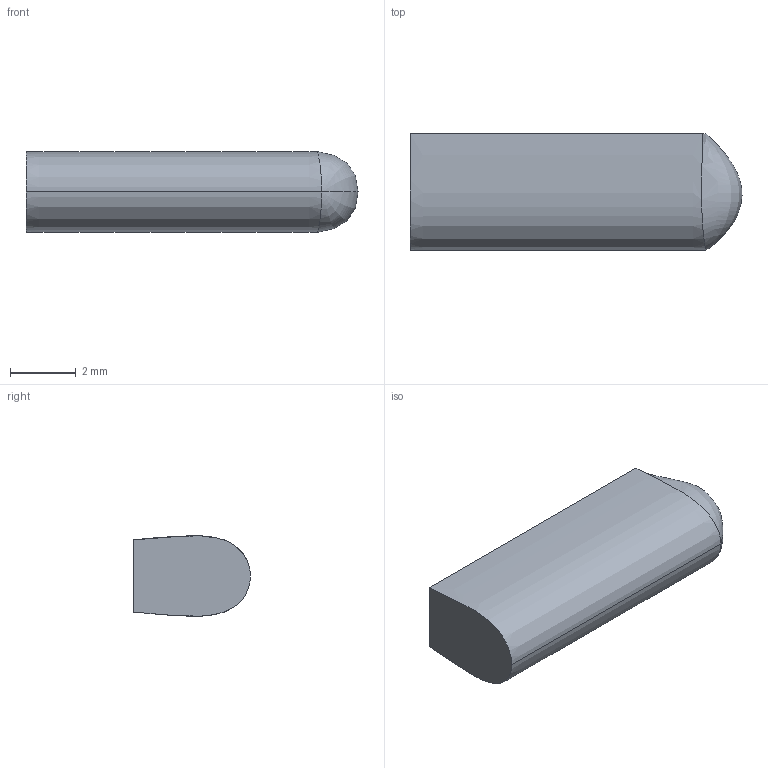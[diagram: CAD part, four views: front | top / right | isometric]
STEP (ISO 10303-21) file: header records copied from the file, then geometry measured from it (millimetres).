
FILE_DESCRIPTION((''),'1');
FILE_NAME('ELEK-ST12-20R','2001-03-30T',('rgoetz'),(''),'PRO/ENGINEER BY PARAMETRIC TECHNOLOGY CORPORATION, 2000350','PRO/ENGINEER BY PARAMETRIC TECHNOLOGY CORPORATION, 2000350','');
FILE_SCHEMA(('CONFIG_CONTROL_DESIGN'));
Length unit declared in the file: millimetre
Products named in the file (1): ELEK-ST12-20R
Bounding box: 10.1 x 3.55 x 2.46 mm (x, y, z)
Volume: 74.4 mm3; surface area: 114.7 mm2
Topology: 1 solids, 1 shells, 6 faces, 13 edges, 7 vertices
Faces by surface type: plane 2, extrusion 2, bspline 2
Entity records: 647 total; most frequent: CARTESIAN_POINT 506, ORIENTED_EDGE 22, EDGE_CURVE 11, DIRECTION 10, B_SPLINE_CURVE_WITH_KNOTS 9, VERTEX_POINT 7, VECTOR 6, EDGE_LOOP 6
